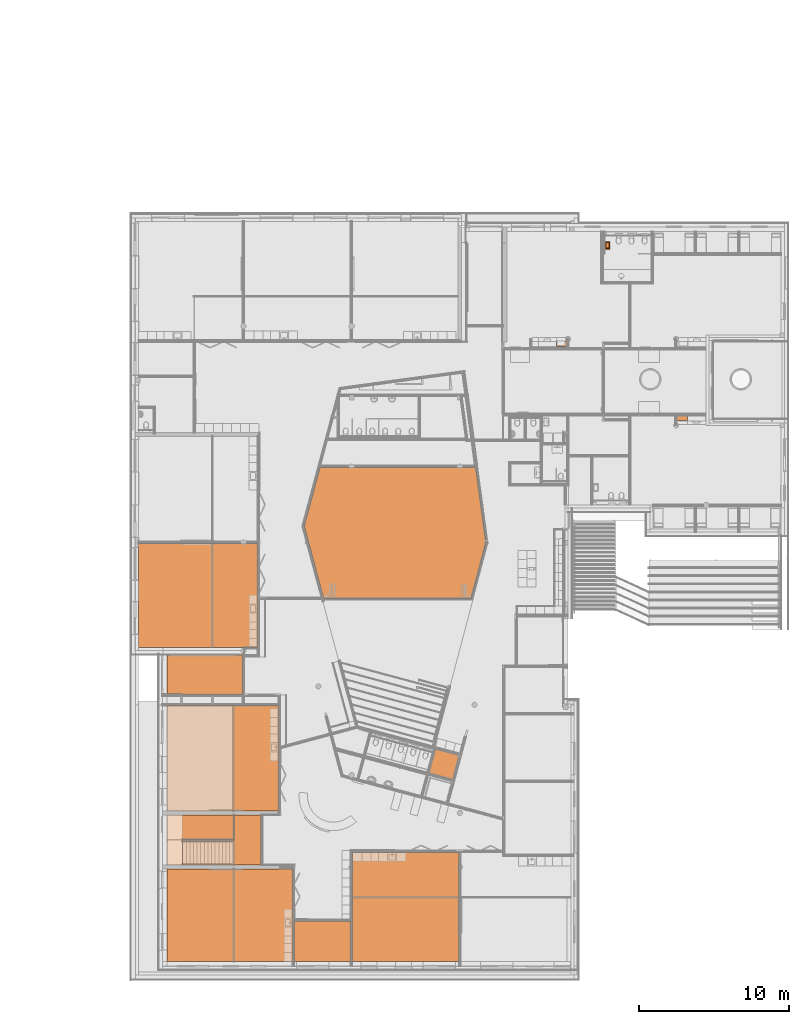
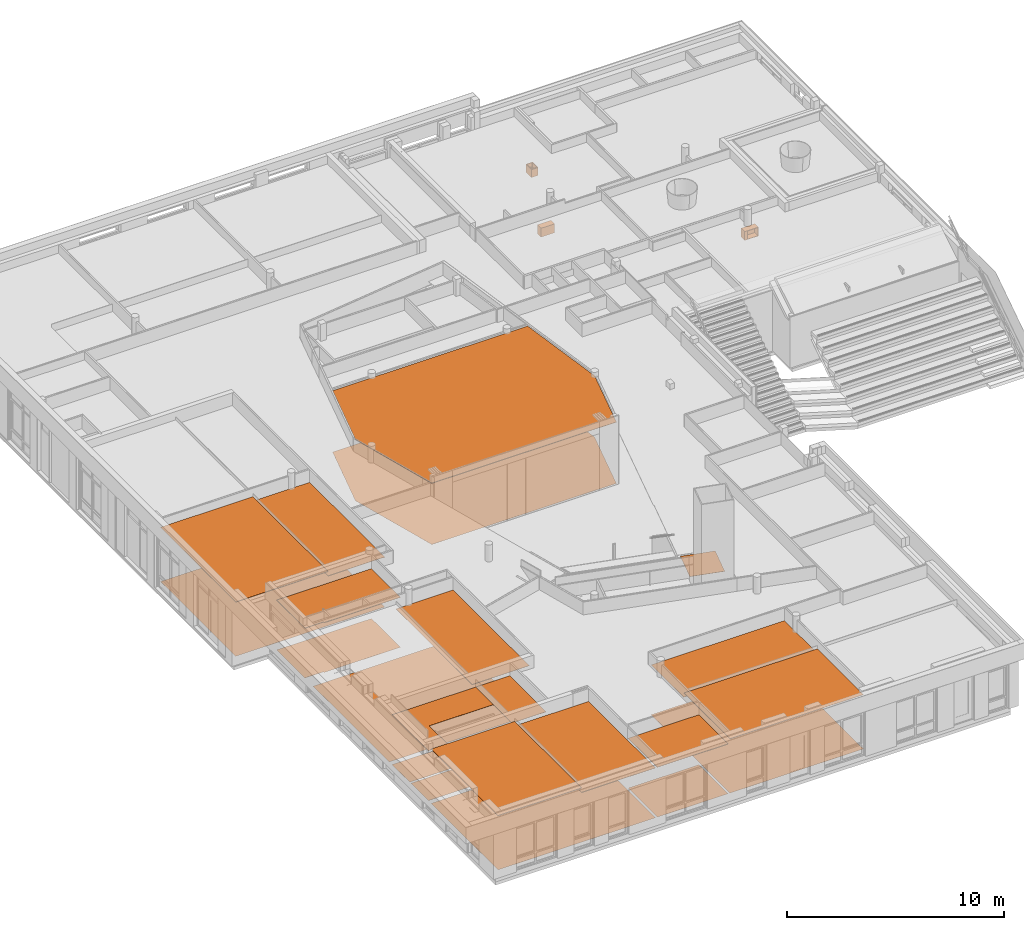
# One storey, part 119 of 167: 25 proxies.
"""IFC2X3 building model written with IfcOpenShell, lengths in millimetres."""

from ifc_helpers import new_model, entity, si_unit, converted_unit, derived_unit, money_unit, direction, frame, origin_with_axes, place, context, subcontext, project, spatial, faceted_brep, source, transform, mapped, material, type_object, type_shapes, element, save


model = new_model("IFC2X3")

# Units and contexts
model_context = context("Model", 3, precision=0.01, world=origin_with_axes(), true_north=direction((0.0, 1.0)))
plan_context = context("Plan", 3, precision=0.01, world=origin_with_axes(), true_north=direction((0.0, 1.0)))
body_context = subcontext(model_context, "Body", "Model", "MODEL_VIEW")
ifc_project = project(units=[si_unit("LENGTHUNIT", "METRE", prefix="MILLI"), si_unit("AREAUNIT", "SQUARE_METRE"), si_unit("VOLUMEUNIT", "CUBIC_METRE"), converted_unit("PLANEANGLEUNIT", "DEGREE", entity("IfcPlaneAngleMeasure", 0.0174532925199), si_unit("PLANEANGLEUNIT", "RADIAN"), dimensions=[0, 0, 0, 0, 0, 0, 0]), si_unit("SOLIDANGLEUNIT", "STERADIAN"), money_unit("EUR"), converted_unit("TIMEUNIT", "Year", entity("IfcTimeMeasure", 31556926.0), si_unit("TIMEUNIT", "SECOND"), dimensions=[0, 0, 1, 0, 0, 0, 0]), si_unit("MASSUNIT", "GRAM", prefix="KILO"), si_unit("THERMODYNAMICTEMPERATUREUNIT", "DEGREE_CELSIUS"), si_unit("LUMINOUSINTENSITYUNIT", "LUMEN"), si_unit("ENERGYUNIT", "JOULE", prefix="MEGA"), derived_unit("THERMALCONDUCTANCEUNIT", [(si_unit("POWERUNIT", "WATT"), 1), (si_unit("LENGTHUNIT", "METRE"), -1), (si_unit("THERMODYNAMICTEMPERATUREUNIT", "KELVIN"), -1)]), derived_unit("SPECIFICHEATCAPACITYUNIT", [(si_unit("ENERGYUNIT", "JOULE"), 1), (si_unit("MASSUNIT", "GRAM", prefix="KILO"), -1), (si_unit("THERMODYNAMICTEMPERATUREUNIT", "KELVIN"), -1)]), derived_unit("MASSDENSITYUNIT", [(si_unit("MASSUNIT", "GRAM", prefix="KILO"), 1), (si_unit("VOLUMEUNIT", "CUBIC_METRE"), -1)])], contexts=[model_context, plan_context])

# Site, building, storey
site_placement = place(None, origin_with_axes())
site = spatial("IfcSite", under=ifc_project, at=site_placement, Name="Site", CompositionType="ELEMENT")
building_placement = place(site_placement, origin_with_axes())
building = spatial("IfcBuilding", under=site, at=building_placement, Name="Naam gebouw", CompositionType="ELEMENT")
storey_placement = place(building_placement, origin_with_axes())
storey = spatial("IfcBuildingStorey", under=building, at=storey_placement, Name="Begane grond", CompositionType="ELEMENT", Elevation=0.0)

# Proxies
ifc_material_1 = material(Name="ALG - BINNENAFWERKING")
building_element_proxy_type_1 = type_object("IfcBuildingElementProxyType", Name="ALG - BINNENAFWERKING 10", PredefinedType="NOTDEFINED")
proxy_1_placement = place(storey_placement, frame((2100.0, 900.0, 3050.0), z_axis=(0.0, 0.0, 1.0), x_axis=(1.0, 0.0, 0.0)))
element("IfcBuildingElementProxy", 1, at=proxy_1_placement, inside=storey, type_object=building_element_proxy_type_1, material=ifc_material_1, Name="23__Vloer-x", context=body_context, shape_type="Brep", body=[
    faceted_brep([(0.0, 0.0, 10.0), (0.0, 0.0, 0.0), (4449.999981, 0.0, 0.0), (4449.999981, 0.0, 10.0), (0.0, 6170.85303684, 10.0), (0.0, 6170.85303684, 0.0), (4449.999981, 6170.85303684, 0.0), (4449.999981, 6170.85303684, 10.0)], [[[0, 1, 2, 3]], [[4, 5, 1, 0]], [[2, 1, 5, 6]], [[3, 2, 6, 7]], [[4, 0, 3, 7]], [[7, 6, 5, 4]]]),
])
proxy_2_placement = place(storey_placement, frame((2100.0, 18650.0, 2800.0), z_axis=(0.0, 0.0, 1.0), x_axis=(1.0, 0.0, 0.0)))
element("IfcBuildingElementProxy", 2, at=proxy_2_placement, inside=storey, type_object=building_element_proxy_type_1, material=ifc_material_1, Name="23__Vloer-x", context=body_context, shape_type="Brep", body=[
    faceted_brep([(0.0, 60.0, 10.0), (989.671028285, 60.0, 10.0), (989.671028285, 0.0, 10.0), (5050.0, 0.0, 10.0), (5050.0, 2666.0, 10.0), (0.0, 2666.0, 10.0), (0.0, 60.0, 0.0), (989.671028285, 60.0, 0.0), (989.671028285, 0.0, 0.0), (5050.0, 0.0, 0.0), (5050.0, 2666.0, 0.0), (0.0, 2666.0, 0.0)], [[[0, 1, 2, 3, 4, 5]], [[6, 7, 1, 0]], [[8, 2, 1, 7]], [[3, 2, 8, 9]], [[4, 3, 9, 10]], [[5, 4, 10, 11]], [[11, 6, 0, 5]], [[8, 7, 6, 11, 10, 9]]]),
])
proxy_3_placement = place(storey_placement, frame((14450.0, 5173.34783859, 3050.0), z_axis=(0.0, 0.0, 1.0), x_axis=(1.0, 0.0, 0.0)))
element("IfcBuildingElementProxy", 3, at=proxy_3_placement, inside=storey, type_object=building_element_proxy_type_1, material=ifc_material_1, Name="23__Vloer-x", context=body_context, shape_type="Brep", body=[
    faceted_brep([(7100.0, -4273.34783859, 0.0), (7100.0, -25.0, 0.0), (7100.0, -25.0, 10.0), (7100.0, -4273.34783859, 10.0), (0.0, -4273.34783859, 0.0), (0.0, -25.0, 0.0), (0.0, -25.0, 10.0), (0.0, -4273.34783859, 10.0)], [[[0, 1, 2, 3]], [[4, 5, 1, 0]], [[5, 6, 2, 1]], [[3, 2, 6, 7]], [[3, 7, 4, 0]], [[7, 6, 5, 4]]]),
])
proxy_4_placement = place(storey_placement, frame((5125.0, 21814.0, 2800.0), z_axis=(0.0, 0.0, 1.0), x_axis=(1.0, 0.0, 0.0)))
element("IfcBuildingElementProxy", 4, at=proxy_4_placement, inside=storey, type_object=building_element_proxy_type_1, material=ifc_material_1, Name="23__Vloer-x", context=body_context, shape_type="Brep", body=[
    faceted_brep([(0.0, 0.0, 10.0), (0.0, 0.0, 0.0), (3024.99995959, 0.0, 0.0), (3024.99995959, 0.0, 10.0), (0.0, 6936.0, 10.0), (0.0, 6936.0, 0.0), (3024.99995959, 6936.0, 0.0), (3024.99995959, 6936.0, 10.0)], [[[0, 1, 2, 3]], [[4, 5, 1, 0]], [[1, 5, 6, 2]], [[3, 2, 6, 7]], [[4, 0, 3, 7]], [[7, 6, 5, 4]]]),
])
proxy_5_placement = place(storey_placement, frame((21550.0, 8173.34783859, 2800.0), z_axis=(0.0, 0.0, 1.0), x_axis=(1.0, 0.0, 0.0)))
element("IfcBuildingElementProxy", 5, at=proxy_5_placement, inside=storey, type_object=building_element_proxy_type_1, material=ifc_material_1, Name="23__Vloer-x", context=body_context, shape_type="Brep", body=[
    faceted_brep([(0.0, 0.0, 10.0), (0.0, 0.0, 0.0), (-7100.0, 0.0, 0.0), (-7100.0, 0.0, 10.0), (0.0, -3000.0, 10.0), (0.0, -3000.0, 0.0), (-7100.0, -3000.0, 0.0), (-7100.0, -3000.0, 10.0)], [[[0, 1, 2, 3]], [[4, 5, 1, 0]], [[2, 1, 5, 6]], [[3, 2, 6, 7]], [[4, 0, 3, 7]], [[7, 6, 5, 4]]]),
])
proxy_6_placement = place(storey_placement, frame((6549.999981, 7325.0, 2800.0), z_axis=(0.0, 0.0, 1.0), x_axis=(1.0, 0.0, 0.0)))
element("IfcBuildingElementProxy", 6, at=proxy_6_placement, inside=storey, type_object=building_element_proxy_type_1, material=ifc_material_1, Name="23__Vloer-x", context=body_context, shape_type="Brep", body=[
    faceted_brep([(0.0, 0.0, 10.0), (0.0, 0.0, 0.0), (1819.25217822, 0.0, 0.0), (1819.25217822, 0.0, 10.0), (0.0, 3350.0, 10.0), (0.0, 3350.0, 0.0), (1819.25217822, 3350.0, 0.0), (1819.25217822, 3350.0, 10.0)], [[[0, 1, 2, 3]], [[4, 5, 1, 0]], [[2, 1, 5, 6]], [[3, 2, 6, 7]], [[4, 0, 3, 7]], [[7, 6, 5, 4]]]),
])
proxy_7_placement = place(storey_placement, frame((6549.999981, 900.0, 2800.0), z_axis=(0.0, 0.0, 1.0), x_axis=(1.0, 0.0, 0.0)))
element("IfcBuildingElementProxy", 7, at=proxy_7_placement, inside=storey, type_object=building_element_proxy_type_1, material=ifc_material_1, Name="23__Vloer-x", context=body_context, shape_type="Brep", body=[
    faceted_brep([(0.0, 0.0, 10.0), (0.0, 0.0, 0.0), (3931.82725345, 0.0, 0.0), (3931.82725345, 0.0, 10.0), (0.0, 6170.85303684, 10.0), (0.0, 6170.85303684, 0.0), (3931.82725345, 6170.85303684, 0.0), (3931.82725345, 6170.85303684, 10.0)], [[[0, 1, 2, 3]], [[4, 5, 1, 0]], [[2, 1, 5, 6]], [[3, 2, 6, 7]], [[4, 0, 3, 7]], [[7, 6, 5, 4]]]),
])
proxy_8_placement = place(storey_placement, frame((6510.000019, 10925.0, 2800.0), z_axis=(0.0, 0.0, 1.0), x_axis=(1.0, 0.0, 0.0)))
element("IfcBuildingElementProxy", 8, at=proxy_8_placement, inside=storey, type_object=building_element_proxy_type_1, material=ifc_material_1, Name="23__Vloer-x", context=body_context, shape_type="Brep", body=[
    faceted_brep([(3039.999981, 0.0, 10.0), (0.0, 0.0, 10.0), (0.0, 0.0, 0.0), (3039.999981, 0.0, 0.0), (3039.999981, 7025.00009033, 10.0), (0.0, 7025.00009033, 10.0), (0.0, 7025.00009033, 0.0), (3039.999981, 7025.00009033, 0.0)], [[[0, 1, 2, 3]], [[4, 5, 1, 0]], [[1, 5, 6, 2]], [[7, 3, 2, 6]], [[4, 0, 3, 7]], [[5, 4, 7, 6]]]),
])
proxy_9_placement = place(storey_placement, frame((11239.2831059, 29890.1208707, 3445.0), z_axis=(0.0, 0.0, 1.0), x_axis=(1.0, 0.0, 0.0)))
element("IfcBuildingElementProxy", 9, at=proxy_9_placement, inside=storey, type_object=building_element_proxy_type_1, material=ifc_material_1, Name="23__Vloer-x", context=body_context, shape_type="Brep", body=[
    faceted_brep([(0.0, 0.0, 10.0), (0.0, 0.0, 0.0), (1290.20781094, -4815.12087073, 0.0), (1290.20781094, -4815.12087073, 10.0), (1048.84328105, 3909.15226077, 10.0), (1048.84328105, 3909.15226077, 0.0), (11432.8380072, 3911.57578479, 0.0), (12109.8280679, -1086.92920059, 0.0), (11118.5075919, -4815.12087073, 0.0), (11118.5075919, -4815.12087073, 10.0), (12109.8280679, -1086.92920059, 10.0), (11432.8380072, 3911.57578479, 10.0)], [[[0, 1, 2, 3]], [[4, 5, 1, 0]], [[2, 1, 5, 6, 7, 8]], [[3, 2, 8, 9]], [[4, 0, 3, 9, 10, 11]], [[11, 6, 5, 4]], [[10, 7, 6, 11]], [[9, 8, 7, 10]]]),
])
proxy_10_placement = place(storey_placement, frame((10581.8272344, 900.0, 2800.0), z_axis=(0.0, 0.0, 1.0), x_axis=(1.0, 0.0, 0.0)))
element("IfcBuildingElementProxy", 10, at=proxy_10_placement, inside=storey, type_object=building_element_proxy_type_1, material=ifc_material_1, Name="23__Vloer-x", context=body_context, shape_type="Brep", body=[
    faceted_brep([(0.0, 0.0, 10.0), (0.0, 0.0, 0.0), (3768.17276555, 0.0, 0.0), (3768.17276555, 0.0, 10.0), (0.0, 2700.0, 10.0), (0.0, 2700.0, 0.0), (3768.17276555, 2700.0, 0.0), (3768.17276555, 2700.0, 10.0)], [[[0, 1, 2, 3]], [[4, 5, 1, 0]], [[2, 1, 5, 6]], [[3, 2, 6, 7]], [[4, 0, 3, 7]], [[7, 6, 5, 4]]]),
])
proxy_11_placement = place(storey_placement, frame((19977.6264881, 15061.6023447, 2800.0), z_axis=(0.0, 0.0, 1.0), x_axis=(1.0, 0.0, 0.0)))
element("IfcBuildingElementProxy", 11, at=proxy_11_placement, inside=storey, type_object=building_element_proxy_type_1, material=ifc_material_1, Name="23__Vloer-x", context=body_context, shape_type="Brep", body=[
    faceted_brep([(0.0, 0.0, 10.0), (0.0, 0.0, 0.0), (-439.997035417, -1642.09129136, 0.0), (-439.997035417, -1642.09129136, 10.0), (1612.43743773, -432.051309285, 10.0), (1612.43743773, -432.051309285, 0.0), (1172.4404023, -2074.14260064, 0.0), (1172.4404023, -2074.14260064, 10.0)], [[[0, 1, 2, 3]], [[4, 5, 1, 0]], [[2, 1, 5, 6]], [[3, 2, 6, 7]], [[4, 0, 3, 7]], [[7, 6, 5, 4]]]),
])
proxy_12_placement = place(storey_placement, frame((214.0, 21814.0, 3050.0), z_axis=(0.0, 0.0, 1.0), x_axis=(1.0, 0.0, 0.0)))
element("IfcBuildingElementProxy", 12, at=proxy_12_placement, inside=storey, type_object=building_element_proxy_type_1, material=ifc_material_1, Name="23__Vloer-x", context=body_context, shape_type="Brep", body=[
    faceted_brep([(0.0, 0.0, 10.0), (0.0, 0.0, 0.0), (4911.00008431, 0.0, 0.0), (4911.00008431, 0.0, 10.0), (0.0, 6935.99996334, 10.0), (0.0, 6935.99996334, 0.0), (4911.00008431, 6935.99996334, 0.0), (4911.00008431, 6935.99996334, 10.0)], [[[0, 1, 2, 3]], [[4, 5, 1, 0]], [[2, 1, 5, 6]], [[3, 2, 6, 7]], [[4, 0, 3, 7]], [[7, 6, 5, 4]]]),
])
proxy_13_placement = place(storey_placement, frame((2100.0, 10675.0, 2800.0), z_axis=(0.0, 0.0, 1.0), x_axis=(1.0, 0.0, 0.0)))
element("IfcBuildingElementProxy", 13, at=proxy_13_placement, inside=storey, type_object=building_element_proxy_type_1, material=ifc_material_1, Name="23__Vloer-x", context=body_context, shape_type="Brep", body=[
    faceted_brep([(1050.55541843, -1663.53654104, 10.0), (1050.55541843, -1633.8625245, 10.0), (4409.21913119, -1633.8625245, 10.0), (4409.21913119, -1663.53654104, 10.0), (4449.999981, -1663.53654104, 10.0), (4449.999981, 0.0, 10.0), (0.0, 0.0, 10.0), (0.0, -3350.0, 10.0), (1042.81422202, -3350.0, 10.0), (1034.0, -1663.53654104, 10.0), (1050.55541843, -1663.53654104, 0.0), (1050.55541843, -1633.8625245, 0.0), (4409.21913119, -1633.8625245, 0.0), (4409.21913119, -1663.53654104, 0.0), (4449.999981, -1663.53654104, 0.0), (4449.999981, 0.0, 0.0), (0.0, 0.0, 0.0), (0.0, -3350.0, 0.0), (1042.81422202, -3350.0, 0.0), (1034.0, -1663.53654104, 0.0)], [[[0, 1, 2, 3, 4, 5, 6, 7, 8, 9]], [[10, 11, 1, 0]], [[12, 2, 1, 11]], [[3, 2, 12, 13]], [[4, 3, 13, 14]], [[5, 4, 14, 15]], [[6, 5, 15, 16]], [[7, 6, 16, 17]], [[8, 7, 17, 18]], [[9, 8, 18, 19]], [[19, 10, 0, 9]], [[12, 11, 10, 19, 18, 17, 16, 15, 14, 13]]]),
])
ifc_material_2 = material(Name="_TenW_43_gietvloer Bolidt dolphine grey")
building_element_proxy_type_2 = type_object("IfcBuildingElementProxyType", Name="_TenW_43_gietvloer Bolidt dolphine grey 2", PredefinedType="NOTDEFINED")
proxy_14_placement = place(storey_placement, frame((11239.2831533, 29890.1208429, 0.0), z_axis=(0.0, 0.0, 1.0), x_axis=(1.0, 0.0, 0.0)))
element("IfcBuildingElementProxy", 14, at=proxy_14_placement, inside=storey, type_object=building_element_proxy_type_2, material=ifc_material_2, Name="23__Vloer-x", context=body_context, shape_type="Brep", body=[
    faceted_brep([(0.0, 0.0, 2.0), (0.0, 0.0, 0.0), (1290.20769191, -4815.12084293, 0.0), (1290.20769191, -4815.12084293, 2.0), (1048.10352083, 3911.5758145, 2.0), (1048.10352083, 3911.5758145, 0.0), (11432.8377992, 3911.5758145, 0.0), (12109.828091, -1086.92928753, 0.0), (11118.5075247, -4815.12084293, 0.0), (11118.5075247, -4815.12084293, 2.0), (12109.828091, -1086.92928753, 2.0), (11432.8377992, 3911.5758145, 2.0)], [[[0, 1, 2, 3]], [[4, 5, 1, 0]], [[2, 1, 5, 6, 7, 8]], [[3, 2, 8, 9]], [[4, 0, 3, 9, 10, 11]], [[11, 6, 5, 4]], [[10, 7, 6, 11]], [[9, 8, 7, 10]]]),
])
ifc_material_3 = material(Name="_TenW_43_Schoonlooptapijt_Coral Duo")
building_element_proxy_type_3 = type_object("IfcBuildingElementProxyType", Name="_TenW_43_Schoonlooptapijt_Coral Duo 2", PredefinedType="NOTDEFINED")
proxy_15_placement = place(storey_placement, frame((1800.0, 21320.0, 0.0), z_axis=(0.0, 0.0, 1.0), x_axis=(1.0, 0.0, 0.0)))
element("IfcBuildingElementProxy", 15, at=proxy_15_placement, inside=storey, type_object=building_element_proxy_type_3, material=ifc_material_3, Name="23__Vloer-x", context=body_context, shape_type="Brep", body=[
    faceted_brep([(5350.0, -2670.0, 0.0), (5350.0, -4.0, 0.0), (5350.0, -4.0, 2.0), (5350.0, -2670.0, 2.0), (300.0, -2610.0, 0.0), (300.0, -4.0, 0.0), (1289.67102829, -2670.0, 0.0), (1289.67102829, -2610.0, 0.0), (300.0, -4.0, 2.0), (300.0, -2610.0, 2.0), (1289.67102829, -2610.0, 2.0), (1289.67102829, -2670.0, 2.0)], [[[0, 1, 2, 3]], [[4, 5, 1, 0, 6, 7]], [[5, 8, 2, 1]], [[3, 2, 8, 9, 10, 11]], [[3, 11, 6, 0]], [[9, 8, 5, 4]], [[6, 11, 10, 7]], [[4, 7, 10, 9]]]),
])
proxy_16_placement = place(storey_placement, frame((2100.0, 10675.0, 0.0), z_axis=(0.0, 0.0, 1.0), x_axis=(1.0, 0.0, 0.0)))
element("IfcBuildingElementProxy", 16, at=proxy_16_placement, inside=storey, type_object=building_element_proxy_type_3, material=ifc_material_3, Name="23__Vloer-x", context=body_context, shape_type="Brep", body=[
    faceted_brep([(0.0, 0.0, 2.0), (0.0, 0.0, 0.0), (0.0, -1633.8625245, 0.0), (0.0, -1633.8625245, 2.0), (4410.55541843, 0.0, 2.0), (4410.55541843, 0.0, 0.0), (4410.55541843, -1633.8625245, 0.0), (4410.55541843, -1633.8625245, 2.0)], [[[0, 1, 2, 3]], [[4, 5, 1, 0]], [[2, 1, 5, 6]], [[3, 2, 6, 7]], [[4, 0, 3, 7]], [[7, 6, 5, 4]]]),
])
building_element_proxy_type_4 = type_object("IfcBuildingElementProxyType", Name="Uitstortgootsteen 24", PredefinedType="NOTDEFINED")
shared_shape_1 = source(origin_with_axes(), body_context, "Body", "Brep", [
    faceted_brep([(172.438247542, -85.7055238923, 199.999999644), (169.29447672, -82.5617519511, 199.999999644), (159.733901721, -80.0000052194, 199.999999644), (-159.733901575, -80.0000052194, 199.999999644), (-169.294476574, -82.5617519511, 199.999999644), (-172.438247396, -85.7055238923, 199.999999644), (-174.999997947, -95.2661013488, 199.999999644), (-174.999997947, -264.733896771, 199.999999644), (-172.438247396, -274.29447672, 199.999999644), (-169.294476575, -277.438247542, 199.999999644), (-159.733896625, -279.999998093, 199.999999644), (159.733896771, -279.999998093, 199.999999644), (169.29447672, -277.438247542, 199.999999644), (172.438247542, -274.29447672, 199.999999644), (174.999998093, -264.733896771, 199.999999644), (174.999998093, -95.2661013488, 199.999999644), (-35.0, -119.378221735, 200.0), (0.0, -110.0, 200.0), (35.0, -119.378221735, 200.0), (60.6217782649, -145.0, 200.0), (70.0, -180.0, 200.0), (60.6217782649, -215.0, 200.0), (35.0, -240.621778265, 200.0), (0.0, -250.0, 200.0), (-35.0, -240.621778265, 200.0), (-60.6217782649, -215.0, 200.0), (-70.0, -180.0, 200.0), (-60.6217782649, -145.0, 200.0), (181.720281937, -80.3465390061, 201.362966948), (174.653462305, -73.2797168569, 201.362966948), (161.096868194, -69.6472407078, 201.362966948), (-161.096868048, -69.6472407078, 201.362966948), (-174.653462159, -73.2797168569, 201.362966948), (-181.720281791, -80.3465390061, 201.362966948), (-185.352762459, -93.9031332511, 201.362966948), (-185.352762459, -266.096864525, 201.362966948), (-181.720281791, -279.653462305, 201.362966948), (-174.653462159, -286.720281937, 201.362966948), (-161.096864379, -290.352762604, 201.362966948), (161.096864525, -290.352762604, 201.362966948), (174.653462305, -286.720281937, 201.362966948), (181.720281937, -279.653462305, 201.362966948), (185.352762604, -266.096864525, 201.362966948), (185.352762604, -93.9031332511, 201.362966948), (-20.0, -145.358983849, 190.0), (0.0, -140.0, 190.0), (20.0, -145.358983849, 190.0), (34.6410161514, -160.0, 190.0), (40.0, -180.0, 190.0), (34.6410161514, -200.0, 190.0), (20.0, -214.641016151, 190.0), (0.0, -220.0, 190.0), (-20.0, -214.641016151, 190.0), (-34.6410161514, -200.0, 190.0), (-40.0, -180.0, 190.0), (-34.6410161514, -160.0, 190.0), (197.797232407, -71.06450762, 211.715728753), (183.935494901, -57.2027651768, 211.715728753), (163.457594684, -51.7157318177, 211.715728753), (-163.457594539, -51.7157318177, 211.715728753), (-183.935494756, -57.2027651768, 211.715728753), (-197.797232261, -71.06450762, 211.715728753), (-203.284271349, -91.5424039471, 211.715728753), (-203.284271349, -268.457593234, 211.715728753), (-197.797232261, -288.935494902, 211.715728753), (-183.935494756, -302.797232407, 211.715728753), (-163.457593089, -308.284271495, 211.715728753), (163.457593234, -308.284271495, 211.715728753), (183.935494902, -302.797232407, 211.715728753), (197.797232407, -288.935494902, 211.715728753), (203.284271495, -268.457593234, 211.715728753), (203.284271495, -91.5424039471, 211.715728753), (207.07926454, -65.7055240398, 229.647238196), (189.29447918, -47.9207323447, 229.647238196), (164.820560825, -41.3629698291, 229.647238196), (-164.82056068, -41.3629698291, 229.647238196), (-189.294479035, -47.9207323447, 229.647238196), (-207.079264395, -65.7055240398, 229.647238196), (-213.637033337, -90.1794361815, 229.647238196), (-213.637033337, -269.820560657, 229.647238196), (-207.079264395, -294.29447918, 229.647238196), (-189.294479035, -312.07926454, 229.647238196), (-164.820560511, -318.637033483, 229.647238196), (164.820560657, -318.637033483, 229.647238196), (189.29447918, -312.07926454, 229.647238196), (207.07926454, -294.29447918, 229.647238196), (213.637033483, -269.820560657, 229.647238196), (213.637033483, -90.1794361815, 229.647238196), (208.301267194, -65.0000005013, 240.0), (190.000002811, -46.6987295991, 240.0), (164.999998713, -40.0000029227, 240.0), (-164.999998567, -40.0000029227, 240.0), (-190.000002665, -46.6987295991, 240.0), (-208.301267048, -65.0000005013, 240.0), (-215.000000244, -89.9999980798, 240.0), (-215.000000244, -269.999998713, 240.0), (-208.301267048, -295.000002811, 240.0), (-190.000002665, -313.301267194, 240.0), (-164.999998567, -320.00000039, 240.0), (164.999998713, -320.00000039, 240.0), (190.000002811, -313.301267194, 240.0), (208.301267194, -295.000002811, 240.0), (215.00000039, -269.999998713, 240.0), (215.00000039, -89.9999980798, 240.0), (208.301267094, -65.0000004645, 450.000000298), (190.000002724, -46.6987296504, 450.000000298), (164.999998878, -40.0000030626, 450.000000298), (-164.999998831, -40.0000030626, 450.000000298), (-190.000002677, -46.6987296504, 450.000000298), (-208.301267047, -65.0000004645, 450.000000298), (-215.000000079, -89.9999978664, 450.000000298), (-215.000000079, -269.999998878, 450.000000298), (-208.301267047, -295.000002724, 450.000000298), (-190.000002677, -313.301267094, 450.000000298), (-164.999998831, -320.000000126, 450.000000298), (164.999998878, -320.000000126, 450.000000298), (190.000002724, -313.301267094, 450.000000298), (208.301267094, -295.000002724, 450.000000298), (215.000000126, -269.999998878, 450.000000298), (215.000000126, -89.9999978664, 450.000000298), (-247.50000002, -7.50000035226, 450.000000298), (-247.50000002, -352.500000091, 450.000000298), (247.500000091, -352.500000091, 450.000000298), (247.500000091, -7.50000035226, 450.000000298), (-255.000000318, -5.42402234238e-08, 442.5), (-255.000000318, -360.00000039, 442.5), (255.00000039, -360.00000039, 442.5), (255.00000039, -5.42402234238e-08, 442.5), (-255.0, 0.0, 100.0), (-255.0, -360.0, 100.0), (255.0, -360.0, 100.0), (255.0, 0.0, 100.0)], [[[0, 1, 2, 3, 4, 5, 6, 7, 8, 9, 10, 11, 12, 13, 14, 15], [16, 17, 18, 19, 20, 21, 22, 23, 24, 25, 26, 27]], [[1, 0, 28, 29]], [[2, 1, 29, 30]], [[3, 2, 30, 31]], [[4, 3, 31, 32]], [[5, 4, 32, 33]], [[6, 5, 33, 34]], [[7, 6, 34, 35]], [[8, 7, 35, 36]], [[9, 8, 36, 37]], [[10, 9, 37, 38]], [[11, 10, 38, 39]], [[12, 11, 39, 40]], [[13, 12, 40, 41]], [[14, 13, 41, 42]], [[15, 14, 42, 43]], [[0, 15, 43, 28]], [[16, 44, 45, 17]], [[17, 45, 46, 18]], [[18, 46, 47, 19]], [[19, 47, 48, 20]], [[20, 48, 49, 21]], [[21, 49, 50, 22]], [[22, 50, 51, 23]], [[23, 51, 52, 24]], [[24, 52, 53, 25]], [[25, 53, 54, 26]], [[26, 54, 55, 27]], [[27, 55, 44, 16]], [[29, 28, 56, 57]], [[30, 29, 57, 58]], [[31, 30, 58, 59]], [[32, 31, 59, 60]], [[33, 32, 60, 61]], [[34, 33, 61, 62]], [[35, 34, 62, 63]], [[36, 35, 63, 64]], [[37, 36, 64, 65]], [[38, 37, 65, 66]], [[39, 38, 66, 67]], [[40, 39, 67, 68]], [[41, 40, 68, 69]], [[42, 41, 69, 70]], [[43, 42, 70, 71]], [[28, 43, 71, 56]], [[53, 52, 51, 50, 49, 48, 47, 46, 45, 44, 55, 54]], [[57, 56, 72, 73]], [[58, 57, 73, 74]], [[59, 58, 74, 75]], [[60, 59, 75, 76]], [[61, 60, 76, 77]], [[62, 61, 77, 78]], [[63, 62, 78, 79]], [[64, 63, 79, 80]], [[65, 64, 80, 81]], [[66, 65, 81, 82]], [[67, 66, 82, 83]], [[68, 67, 83, 84]], [[69, 68, 84, 85]], [[70, 69, 85, 86]], [[71, 70, 86, 87]], [[56, 71, 87, 72]], [[73, 72, 88, 89]], [[74, 73, 89, 90]], [[75, 74, 90, 91]], [[76, 75, 91, 92]], [[77, 76, 92, 93]], [[78, 77, 93, 94]], [[79, 78, 94, 95]], [[80, 79, 95, 96]], [[81, 80, 96, 97]], [[82, 81, 97, 98]], [[83, 82, 98, 99]], [[84, 83, 99, 100]], [[85, 84, 100, 101]], [[86, 85, 101, 102]], [[87, 86, 102, 103]], [[72, 87, 103, 88]], [[89, 88, 104, 105]], [[90, 89, 105, 106]], [[91, 90, 106, 107]], [[92, 91, 107, 108]], [[93, 92, 108, 109]], [[94, 93, 109, 110]], [[95, 94, 110, 111]], [[96, 95, 111, 112]], [[97, 96, 112, 113]], [[98, 97, 113, 114]], [[99, 98, 114, 115]], [[100, 99, 115, 116]], [[101, 100, 116, 117]], [[102, 101, 117, 118]], [[103, 102, 118, 119]], [[88, 103, 119, 104]], [[120, 121, 122, 123], [107, 106, 105, 104, 119, 118, 117, 116, 115, 114, 113, 112, 111, 110, 109, 108]], [[120, 124, 125, 121]], [[121, 125, 126, 122]], [[122, 126, 127, 123]], [[123, 127, 124, 120]], [[124, 128, 129, 125]], [[125, 129, 130, 126]], [[126, 130, 131, 127]], [[127, 131, 128, 124]], [[129, 128, 131, 130]]]),
    faceted_brep([(255.0, 0.0, 0.0), (255.0, 0.0, 100.0), (255.0, -360.0, 100.0), (255.0, -360.0, 0.0), (-255.0, 0.0, 0.0), (-255.0, 0.0, 100.0), (-255.0, -360.0, 100.0), (225.0, -30.0, 100.0), (225.0, -330.0, 100.0), (-225.0, -330.0, 100.0), (-225.0, -30.0, 100.0), (-255.0, -360.0, 0.0), (225.0, -30.0, 0.0), (-225.0, -30.0, 0.0), (-225.0, -330.0, 0.0), (225.0, -330.0, 0.0)], [[[0, 1, 2, 3]], [[4, 5, 1, 0]], [[1, 5, 6, 2], [7, 8, 9, 10]], [[3, 2, 6, 11]], [[0, 3, 11, 4], [12, 13, 14, 15]], [[11, 6, 5, 4]], [[15, 8, 7, 12]], [[14, 9, 8, 15]], [[13, 10, 9, 14]], [[12, 7, 10, 13]]]),
    faceted_brep([(-34.6410161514, -200.0, 190.0), (-40.0, -180.0, 190.0), (-34.6410161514, -160.0, 190.0), (-20.0, -145.358983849, 190.0), (0.0, -140.0, 190.0), (20.0, -145.358983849, 190.0), (34.6410161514, -160.0, 190.0), (40.0, -180.0, 190.0), (34.6410161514, -200.0, 190.0), (20.0, -214.641016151, 190.0), (0.0, -220.0, 190.0), (-20.0, -214.641016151, 190.0), (-34.6410161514, -200.0, 200.0), (-40.0, -180.0, 200.0), (-34.6410161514, -160.0, 200.0), (-20.0, -145.358983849, 200.0), (0.0, -140.0, 200.0), (20.0, -145.358983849, 200.0), (34.6410161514, -160.0, 200.0), (40.0, -180.0, 200.0), (34.6410161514, -200.0, 200.0), (20.0, -214.641016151, 200.0), (0.0, -220.0, 200.0), (-20.0, -214.641016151, 200.0)], [[[0, 1, 2, 3, 4, 5, 6, 7, 8, 9, 10, 11]], [[0, 12, 13, 1]], [[1, 13, 14, 2]], [[2, 14, 15, 3]], [[3, 15, 16, 4]], [[4, 16, 17, 5]], [[5, 17, 18, 6]], [[6, 18, 19, 7]], [[7, 19, 20, 8]], [[8, 20, 21, 9]], [[9, 21, 22, 10]], [[10, 22, 23, 11]], [[11, 23, 12, 0]], [[12, 23, 22, 21, 20, 19, 18, 17, 16, 15, 14, 13]]]),
])
type_shapes(building_element_proxy_type_4, [shared_shape_1])
proxy_17_placement = place(storey_placement, frame((31249.999953, 48579.6894175, 0.0), z_axis=(0.0, 0.0, 1.0), x_axis=(0.0, 1.0, 0.0)))
element("IfcBuildingElementProxy", 17, at=proxy_17_placement, inside=storey, type_object=building_element_proxy_type_4, Name="__FU - 003", context=body_context, shape_type="MappedRepresentation", body=[
    mapped(shared_shape_1, transform((0.0, 0.0, 0.0))),
])
ifc_material_4 = material(Name="_TenW_43_Marmoleum Salsa Verde")
building_element_proxy_type_5 = type_object("IfcBuildingElementProxyType", Name="_TenW_43_Marmoleum Salsa Verde 2", PredefinedType="NOTDEFINED")
proxy_18_placement = place(storey_placement, frame((6510.55541843, 8941.1374755, 0.0), z_axis=(0.0, 0.0, 1.0), x_axis=(1.0, 0.0, 0.0)))
element("IfcBuildingElementProxy", 18, at=proxy_18_placement, inside=storey, type_object=building_element_proxy_type_5, material=ifc_material_4, Name="23__Vloer-x", context=body_context, shape_type="Brep", body=[
    faceted_brep([(0.0, 0.0, 2.0), (0.0, 0.0, 0.0), (-4410.55541843, 0.0, 0.0), (-4410.55541843, 0.0, 2.0), (0.0, 1733.8625245, 2.0), (0.0, 1733.8625245, 0.0), (1858.69674079, 1733.8625245, 0.0), (1858.69674079, -1616.1374755, 0.0), (-4410.55541843, -1616.1374755, 0.0), (-4410.55541843, -1616.1374755, 2.0), (1858.69674079, -1616.1374755, 2.0), (1858.69674079, 1733.8625245, 2.0)], [[[0, 1, 2, 3]], [[4, 5, 1, 0]], [[2, 1, 5, 6, 7, 8]], [[3, 2, 8, 9]], [[4, 0, 3, 9, 10, 11]], [[11, 6, 5, 4]], [[10, 7, 6, 11]], [[9, 8, 7, 10]]]),
])
proxy_19_placement = place(storey_placement, frame((2100.0, 900.000009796, 0.0), z_axis=(0.0, 0.0, 1.0), x_axis=(1.0, 0.0, 0.0)))
element("IfcBuildingElementProxy", 19, at=proxy_19_placement, inside=storey, type_object=building_element_proxy_type_5, material=ifc_material_4, Name="23__Vloer-x", context=body_context, shape_type="Brep", body=[
    faceted_brep([(0.0, 0.0, 2.0), (0.0, 0.0, 0.0), (8381.82723445, -9.7956487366e-06, 0.0), (8381.82723445, -9.7956487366e-06, 2.0), (3.00204305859e-10, 6174.9999902, 2.0), (3.00204305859e-10, 6174.9999902, 0.0), (8381.82723445, 6174.99999021, 0.0), (8381.82723445, 6174.99999021, 2.0)], [[[0, 1, 2, 3]], [[4, 5, 1, 0]], [[2, 1, 5, 6]], [[3, 2, 6, 7]], [[4, 0, 3, 7]], [[7, 6, 5, 4]]]),
])
proxy_20_placement = place(storey_placement, frame((21549.9999539, 8173.34794006, 0.0), z_axis=(0.0, 0.0, 1.0), x_axis=(1.0, 0.0, 0.0)))
element("IfcBuildingElementProxy", 20, at=proxy_20_placement, inside=storey, type_object=building_element_proxy_type_5, material=ifc_material_4, Name="23__Vloer-x", context=body_context, shape_type="Brep", body=[
    faceted_brep([(0.0, 0.0, 2.0), (0.0, 0.0, 0.0), (-7099.99995387, 0.0, 0.0), (-7099.99995387, 0.0, 2.0), (0.0, -7273.34794006, 2.0), (0.0, -7273.34794006, 0.0), (-7099.99995387, -7273.34794006, 0.0), (-7099.99995387, -7273.34794006, 2.0)], [[[0, 1, 2, 3]], [[4, 5, 1, 0]], [[2, 1, 5, 6]], [[3, 2, 6, 7]], [[4, 0, 3, 7]], [[7, 6, 5, 4]]]),
])
proxy_21_placement = place(storey_placement, frame((2100.0, 17950.0000903, 0.0), z_axis=(0.0, 0.0, 1.0), x_axis=(1.0, 0.0, 0.0)))
element("IfcBuildingElementProxy", 21, at=proxy_21_placement, inside=storey, type_object=building_element_proxy_type_5, material=ifc_material_4, Name="23__Vloer-x", context=body_context, shape_type="Brep", body=[
    faceted_brep([(0.0, -7025.00009033, 2.0), (0.0, 0.0, 2.0), (0.0, 0.0, 0.0), (0.0, -7025.00009033, 0.0), (7450.0, 0.0, 2.0), (7450.0, -7025.00009033, 2.0), (7450.0, 0.0, 0.0), (7450.0, -7025.00009033, 0.0)], [[[0, 1, 2, 3]], [[4, 1, 0, 5]], [[1, 4, 6, 2]], [[7, 3, 2, 6]], [[5, 0, 3, 7]], [[4, 5, 7, 6]]]),
])
proxy_22_placement = place(storey_placement, frame((214.0, 21814.0, 0.0), z_axis=(0.0, 0.0, 1.0), x_axis=(1.0, 0.0, 0.0)))
element("IfcBuildingElementProxy", 22, at=proxy_22_placement, inside=storey, type_object=building_element_proxy_type_5, material=ifc_material_4, Name="23__Vloer-x", context=body_context, shape_type="Brep", body=[
    faceted_brep([(0.0, 0.0, 2.0), (0.0, 0.0, 0.0), (7936.0, 0.0, 0.0), (7936.0, 0.0, 2.0), (0.0, 6936.0, 2.0), (0.0, 6936.0, 0.0), (7936.0, 6936.0, 0.0), (7936.0, 6936.0, 2.0)], [[[0, 1, 2, 3]], [[4, 5, 1, 0]], [[2, 1, 5, 6]], [[3, 2, 6, 7]], [[4, 0, 3, 7]], [[7, 6, 5, 4]]]),
])
proxy_23_placement = place(storey_placement, frame((10581.8272344, 900.0, 0.0), z_axis=(0.0, 0.0, 1.0), x_axis=(1.0, 0.0, 0.0)))
element("IfcBuildingElementProxy", 23, at=proxy_23_placement, inside=storey, type_object=building_element_proxy_type_5, material=ifc_material_4, Name="23__Vloer-x", context=body_context, shape_type="Brep", body=[
    faceted_brep([(0.0, 0.0, 2.0), (0.0, 0.0, 0.0), (3768.17276555, 0.0, 0.0), (3768.17276555, 0.0, 2.0), (0.0, 2700.0, 2.0), (0.0, 2700.0, 0.0), (3768.17276555, 2700.0, 0.0), (3768.17276555, 2700.0, 2.0)], [[[0, 1, 2, 3]], [[4, 5, 1, 0]], [[2, 1, 5, 6]], [[3, 2, 6, 7]], [[4, 0, 3, 7]], [[7, 6, 5, 4]]]),
])
building_element_proxy_type_6 = type_object("IfcBuildingElementProxyType", Name="Kast wand 1D 24", PredefinedType="NOTDEFINED")
shared_shape_2 = source(origin_with_axes(), body_context, "Body", "Brep", [
    faceted_brep([(125.0, 20.0, 1980.0), (145.0, 20.0, 1980.0), (145.0, 20.0, 2000.0), (125.0, 20.0, 2000.0), (125.0, 350.0, 1980.0), (145.0, 350.0, 1980.0), (705.0, 350.0, 1980.0), (725.0, 350.0, 1980.0), (725.0, 20.0, 1980.0), (705.0, 20.0, 1980.0), (705.0, 20.0, 2000.0), (725.0, 20.0, 2000.0), (725.0, 350.0, 2000.0), (705.0, 350.0, 2000.0), (145.0, 350.0, 2000.0), (125.0, 350.0, 2000.0)], [[[0, 1, 2, 3]], [[0, 4, 5, 6, 7, 8, 9, 1]], [[1, 9, 10, 2]], [[3, 2, 10, 11, 12, 13, 14, 15]], [[4, 0, 3, 15]], [[5, 4, 15, 14]], [[6, 5, 14, 13]], [[7, 6, 13, 12]], [[8, 7, 12, 11]], [[9, 8, 11, 10]]]),
    faceted_brep([(125.0, 20.0, 1500.0), (145.0, 20.0, 1500.0), (145.0, 20.0, 1520.0), (125.0, 20.0, 1520.0), (125.0, 350.0, 1500.0), (145.0, 350.0, 1500.0), (705.0, 350.0, 1500.0), (725.0, 350.0, 1500.0), (725.0, 20.0, 1500.0), (705.0, 20.0, 1500.0), (705.0, 20.0, 1520.0), (725.0, 20.0, 1520.0), (725.0, 350.0, 1520.0), (705.0, 350.0, 1520.0), (145.0, 350.0, 1520.0), (125.0, 350.0, 1520.0)], [[[0, 1, 2, 3]], [[0, 4, 5, 6, 7, 8, 9, 1]], [[1, 9, 10, 2]], [[3, 2, 10, 11, 12, 13, 14, 15]], [[4, 0, 3, 15]], [[5, 4, 15, 14]], [[6, 5, 14, 13]], [[7, 6, 13, 12]], [[8, 7, 12, 11]], [[9, 8, 11, 10]]]),
    faceted_brep([(125.0, 20.0, 1520.0), (145.0, 20.0, 1520.0), (145.0, 20.0, 1980.0), (125.0, 20.0, 1980.0), (125.0, 350.0, 1520.0), (725.0, 350.0, 1520.0), (725.0, 20.0, 1520.0), (705.0, 20.0, 1520.0), (705.0, 330.0, 1520.0), (145.0, 330.0, 1520.0), (145.0, 330.0, 1980.0), (705.0, 330.0, 1980.0), (705.0, 20.0, 1980.0), (725.0, 20.0, 1980.0), (725.0, 350.0, 1980.0), (125.0, 350.0, 1980.0)], [[[0, 1, 2, 3]], [[0, 4, 5, 6, 7, 8, 9, 1]], [[1, 9, 10, 2]], [[3, 2, 10, 11, 12, 13, 14, 15]], [[4, 0, 3, 15]], [[5, 4, 15, 14]], [[6, 5, 14, 13]], [[7, 6, 13, 12]], [[8, 7, 12, 11]], [[9, 8, 11, 10]]]),
    faceted_brep([(125.0, 348.5, 1501.5), (125.0, 21.5, 1501.5), (0.0, 21.5, 1501.5), (0.0, 348.5, 1501.5), (125.0, 348.5, 1998.5), (125.0, 21.5, 1998.5), (0.0, 21.5, 1998.5), (0.0, 348.5, 1998.5)], [[[0, 1, 2, 3]], [[0, 4, 5, 1]], [[1, 5, 6, 2]], [[3, 2, 6, 7]], [[4, 0, 3, 7]], [[5, 4, 7, 6]]]),
])
type_shapes(building_element_proxy_type_6, [shared_shape_2])
for number, where, z_axis, x_axis in (
    (24, (28748.3441389, 42199.9999886, 200.07308756), (0.0, 0.0, 1.0), (-1.0, 0.0, 0.0)),
    (25, (36028.3441359, 36900.000006, 200.07308756), (0.0, 0.0, 1.0), (1.0, 0.0, 0.0)),
):
    element("IfcBuildingElementProxy", number, at=place(storey_placement, frame(where, z_axis=z_axis, x_axis=x_axis)), inside=storey, type_object=building_element_proxy_type_6, Name="__Object-x", context=body_context, shape_type="MappedRepresentation", body=[
        mapped(shared_shape_2, transform((0.0, 0.0, 0.0))),
    ])

save(model, "model.ifc")
